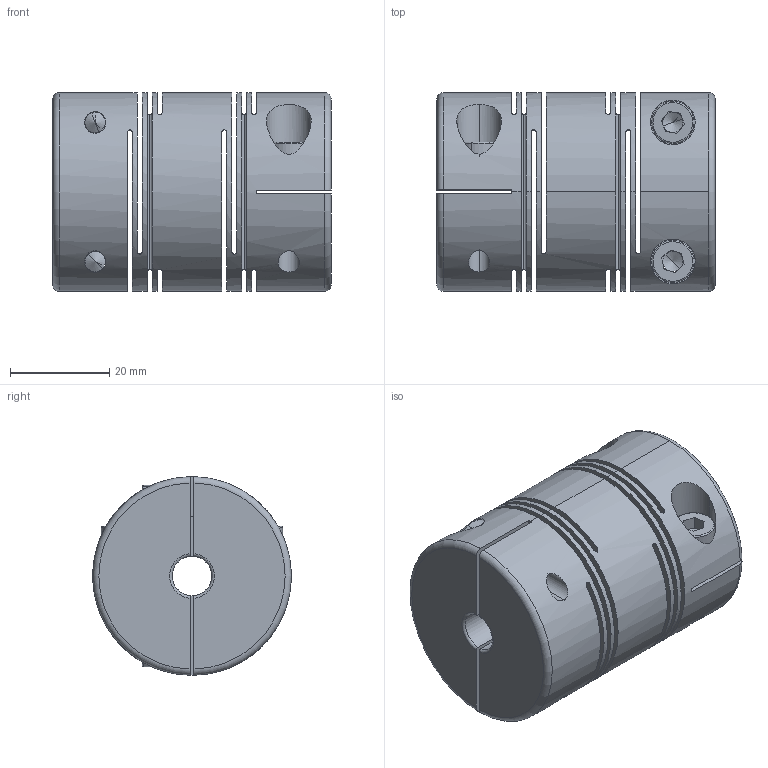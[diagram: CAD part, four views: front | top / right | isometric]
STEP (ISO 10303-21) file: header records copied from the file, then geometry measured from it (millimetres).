
FILE_DESCRIPTION (( 'STEP AP203' ), '1' );
FILE_NAME ('FSCML40-8x8.STEP', '2014-01-25T03:26:33', ( '123' ), ( '' ), 'SwSTEP 2.0', 'SolidWorks 2013', '' );
FILE_SCHEMA (( 'CONFIG_CONTROL_DESIGN' ));
Length unit declared in the file: millimetre
Products named in the file (1): FSCML40-8x8
Bounding box: 56 x 40 x 40 mm (x, y, z)
Surface area: 29817.3 mm2 (no closed solid volume)
Topology: 0 solids, 5 shells, 143 faces, 437 edges, 291 vertices
Faces by surface type: plane 65, cylinder 52, torus 18, cone 8
Entity records: 5722 total; most frequent: CARTESIAN_POINT 1737, DIRECTION 829, ORIENTED_EDGE 773, EDGE_CURVE 429, AXIS2_PLACEMENT_3D 320, VERTEX_POINT 291, VECTOR 189, LINE 189
